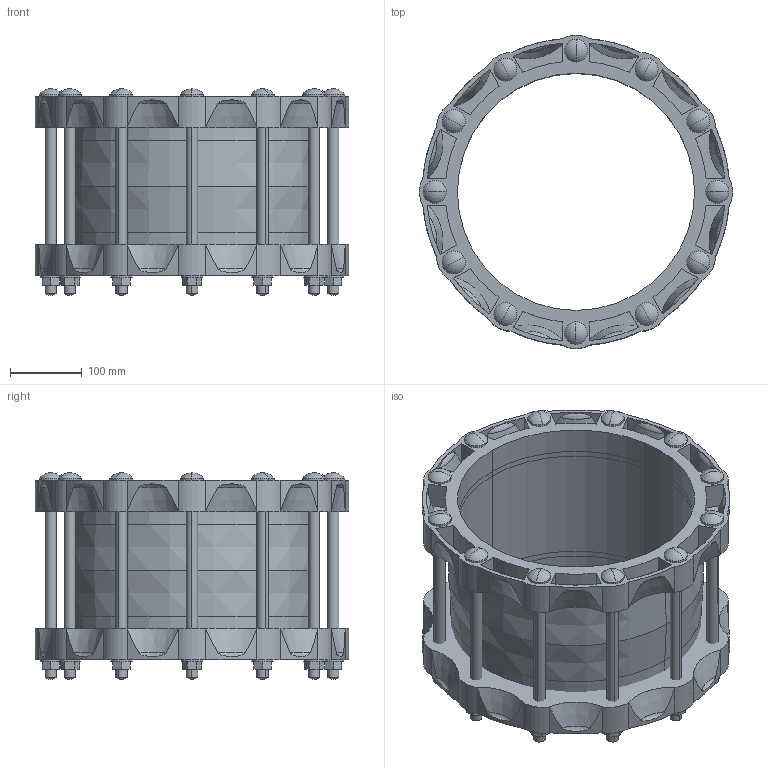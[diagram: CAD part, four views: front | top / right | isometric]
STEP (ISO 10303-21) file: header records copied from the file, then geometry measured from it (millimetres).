
FILE_DESCRIPTION((''),'2;1');
FILE_NAME('FLEXLOCK_COUPLING_323-9_326_ASM','2020-07-29T',('MReader'),(''),'CREO PARAMETRIC BY PTC INC, 2016130','CREO PARAMETRIC BY PTC INC, 2016130','');
FILE_SCHEMA(('CONFIG_CONTROL_DESIGN'));
Length unit declared in the file: millimetre
Products named in the file (5): FLEXLOCK_SLEEVE_323-9_326; FLEXLOCK_ENDRING_323-9_326_AF0; FLEXLOCK_ENDRING_323-9_326; FLEXLOCK_M16_275; FLEXLOCK_COUPLING_323-9_326_ASM
Assembly tree (15 placements, depth 2):
  FLEXLOCK_COUPLING_323-9_326_ASM
    FLEXLOCK_SLEEVE_323-9_326
    FLEXLOCK_ENDRING_323-9_326_AF0
    FLEXLOCK_ENDRING_323-9_326
    FLEXLOCK_M16_275  x12
Bounding box: 436 x 436 x 287.68 mm (x, y, z)
Volume: 6602802.9 mm3; surface area: 1183819.9 mm2
Topology: 15 solids, 15 shells, 512 faces, 1236 edges, 766 vertices
Faces by surface type: plane 186, cylinder 174, cone 56, torus 48, sphere 48
Entity records: 13999 total; most frequent: CARTESIAN_POINT 4115, ORIENTED_EDGE 2024, DIRECTION 2008, EDGE_CURVE 1012, AXIS2_PLACEMENT_3D 755, VERTEX_POINT 656, VECTOR 498, LINE 498
